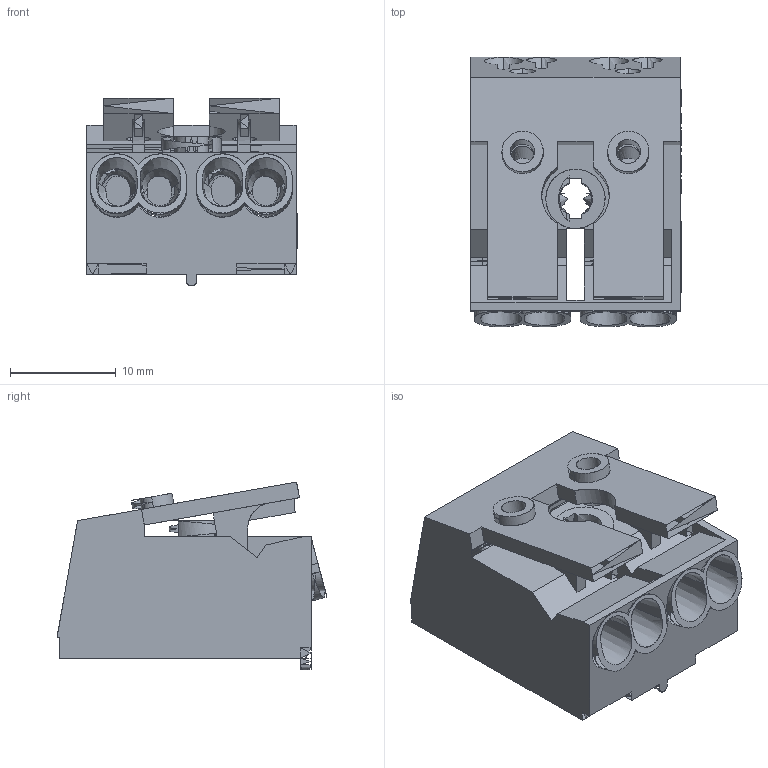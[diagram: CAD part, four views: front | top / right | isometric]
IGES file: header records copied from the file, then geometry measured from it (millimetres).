
Global section: file name: C:\Programme\core_technologie\in\005YU06Y05.igs; native system: CT CoreTechnologie 3D Evolution; preprocessor: 2006; author: assmuth; date: 090304.073541; units: millimetre
Bounding box: 19.9 x 25.53 x 17.78 mm (x, y, z)
Surface area: 3715.7 mm2 (no closed solid volume)
Topology: 0 solids, 0 shells, 312 faces, 1577 edges, 1545 vertices
Faces by surface type: bspline 312
